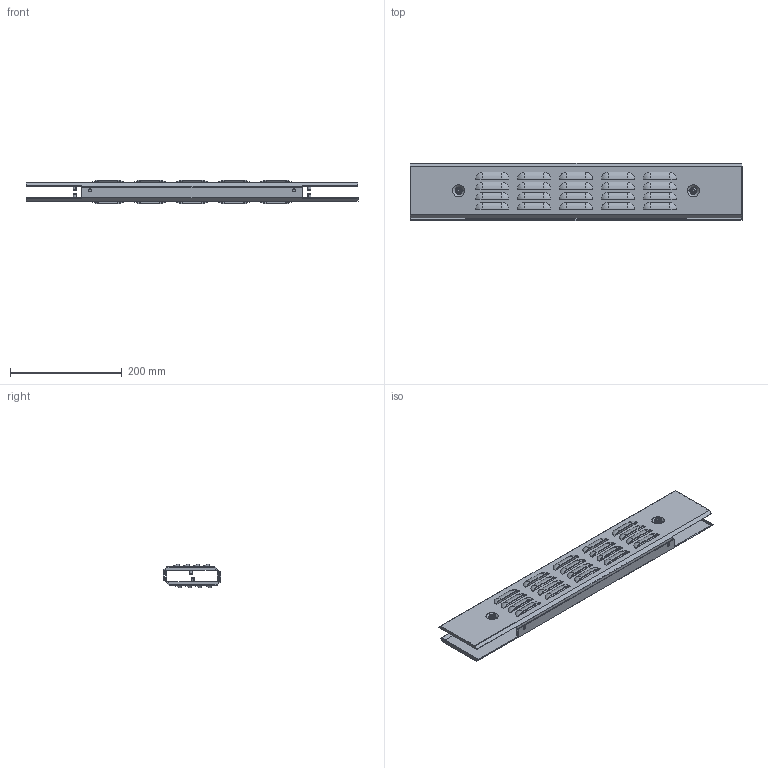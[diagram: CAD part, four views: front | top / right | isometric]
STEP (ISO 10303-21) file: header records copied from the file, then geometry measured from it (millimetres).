
FILE_DESCRIPTION (( 'STEP AP214' ), '1' );
FILE_NAME ('FO-00D-PCV-010-060-7021 Ïàíåëü öîêîëÿ âåíòèëèðóåìàÿ 100õ600 ìì RAL7021 (2 øò.êîìïë.).STEP', '2025-08-21T13:32:35', ( '' ), ( '' ), 'SwSTEP 2.0', 'SolidWorks 2023', '' );
FILE_SCHEMA (( 'AUTOMOTIVE_DESIGN' ));
Length unit declared in the file: millimetre
Products named in the file (2): Панель цоколя вентилируемая 100х00; FO-00D-PCV-010-060-7021 Панель цоколя вентилируемая 100х600 мм RAL7021 (2 шт.компл.)
Assembly tree (2 placements, depth 2):
  FO-00D-PCV-010-060-7021 Панель цоколя вентилируемая 100х600 мм RAL7021 (2 шт.компл.)
    Панель цоколя вентилируемая 100х00  x2
Bounding box: 595 x 102.34 x 42.47 mm (x, y, z)
Volume: 217622.1 mm3; surface area: 319941.2 mm2
Topology: 2 solids, 2 shells, 754 faces, 1986 edges, 1260 vertices
Faces by surface type: plane 292, cylinder 260, torus 170, cone 32
Entity records: 11953 total; most frequent: DIRECTION 2290, CARTESIAN_POINT 2008, ORIENTED_EDGE 1986, EDGE_CURVE 993, AXIS2_PLACEMENT_3D 916, VERTEX_POINT 630, CIRCLE 534, VECTOR 458
